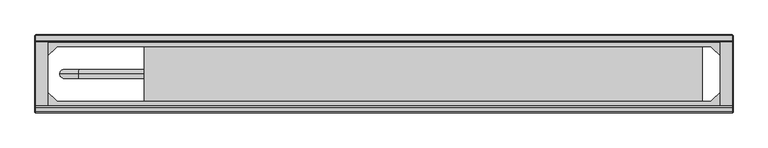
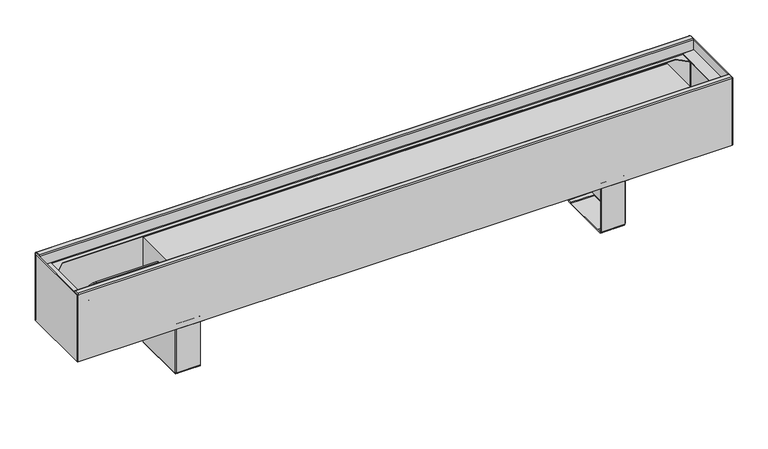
"""IFC4 building model written with IfcOpenShell, lengths in millimetres: proxy geometry, TECHNO_Конвектор напольный_Vita KPZ 135 : KPZ 135-130."""

from ifc_helpers import new_model, si_unit, point, frame, origin, place, context, project, spatial, polyline, circle_curve, ellipse_curve, trimmed, outline, extrude, source, transform, mapped, element, save
from ifc_brep_helpers import plane_surface, cylinder_surface, revolved_surface, advanced_brep


def mechanical_equipment_0ab18733(model_context):
    return source(origin(), model_context, "Body", "SolidModel", [
        advanced_brep(
        [(409.7, -116.8, 1.5), (409.7, -114.5, 3.8), (409.7, -114.5, 4.9), (409.7, -116.0, 4.9), (409.7, -116.0, 3.8), (409.7, -116.8, 3.0), (409.7, -124.5, 3.0), (409.7, -124.5, 1.5), (409.7, -117.6, 1.5), (409.7, -114.5, 97.7), (409.7, -113.7, 98.5), (409.7, -101.0, 98.5), (409.7, -101.0, 100.0), (409.7, -113.7, 100.0), (409.7, -116.0, 97.7), (409.7, -116.0, 95.5), (409.7, -114.5, 95.5), (409.7, -220.5, 3.8), (409.7, -218.2, 1.5), (409.7, -217.4, 1.5), (409.7, -210.5, 1.5), (409.7, -210.5, 3.0), (409.7, -218.2, 3.0), (409.7, -219.0, 3.8), (409.7, -219.0, 4.9), (409.7, -220.5, 4.9), (409.7, -219.0, 97.7), (409.7, -221.3, 100.0), (409.7, -234.0, 100.0), (409.7, -234.0, 98.5), (409.7, -221.3, 98.5), (409.7, -220.5, 97.7), (409.7, -220.5, 95.5), (409.7, -219.0, 95.5), (367.0, -220.5, 97.7), (367.0, -221.3, 98.5), (367.0, -234.0, 98.5), (367.0, -234.0, 100.0), (367.0, -221.3, 100.0), (367.0, -219.0, 97.7), (367.0, -219.0, 3.8), (367.0, -218.2, 3.0), (367.0, -210.5, 3.0), (367.0, -210.5, 1.5), (367.0, -124.5, 1.5), (367.0, -124.5, 3.0), (367.0, -116.8, 3.0), (367.0, -116.0, 3.8), (367.0, -116.0, 97.7), (367.0, -113.7, 100.0), (367.0, -101.0, 100.0), (367.0, -101.0, 98.5), (367.0, -113.7, 98.5), (367.0, -114.5, 97.7), (367.0, -114.5, 3.8), (367.0, -116.8, 1.5), (367.0, -117.6, 1.5), (367.0, -117.6, 0.0), (367.0, -217.4, 0.0), (367.0, -217.4, 1.5), (367.0, -218.2, 1.5), (367.0, -220.5, 3.8), (410.5, -116.8, 95.5), (410.5, -218.2, 95.5), (412.0, -218.2, 95.5), (412.0, -116.8, 95.5), (412.0, -116.8, 4.9), (412.0, -117.6, 4.9), (410.5, -117.6, 4.9), (410.5, -116.8, 4.9), (410.5, -218.2, 4.9), (410.5, -217.4, 4.9), (412.0, -217.4, 4.9), (412.0, -218.2, 4.9), (410.5, -117.6, 2.3), (410.5, -217.4, 2.3), (412.0, -217.4, 2.3), (412.0, -117.6, 2.3), (409.7, -117.6, 0.0), (409.7, -217.4, 0.0)],
        [
            (0, 1, circle_curve(frame((409.7, -116.8, 3.8), z_axis=(1.0, 0.0, 0.0), x_axis=(0.0, -1.0, 0.0)), 2.3)),
            (1, 2),
            (2, 3),
            (3, 4),
            (4, 5, circle_curve(frame((409.7, -116.8, 3.8), z_axis=(-1.0, 0.0, 0.0), x_axis=(0.0, -1.0, 0.0)), 0.8)),
            (5, 6),
            (6, 7),
            (7, 8),
            (8, 0),
            (9, 10, circle_curve(frame((409.7, -113.7, 97.7), z_axis=(-1.0, 0.0, 0.0), x_axis=(0.0, -1.0, 0.0)), 0.8)),
            (10, 11),
            (11, 12),
            (12, 13),
            (13, 14, circle_curve(frame((409.7, -113.7, 97.7), z_axis=(1.0, 0.0, 0.0), x_axis=(0.0, -1.0, 0.0)), 2.3)),
            (14, 15),
            (15, 16),
            (16, 9),
            (17, 18, circle_curve(frame((409.7, -218.2, 3.8), z_axis=(1.0, 0.0, 0.0), x_axis=(0.0, -1.0, 0.0)), 2.3)),
            (18, 19),
            (19, 20),
            (20, 21),
            (21, 22),
            (22, 23, circle_curve(frame((409.7, -218.2, 3.8), z_axis=(-1.0, 0.0, 0.0), x_axis=(0.0, -1.0, 0.0)), 0.8)),
            (23, 24),
            (24, 25),
            (25, 17),
            (26, 27, circle_curve(frame((409.7, -221.3, 97.7), z_axis=(1.0, 0.0, 0.0), x_axis=(0.0, -1.0, 0.0)), 2.3)),
            (27, 28),
            (28, 29),
            (29, 30),
            (30, 31, circle_curve(frame((409.7, -221.3, 97.7), z_axis=(-1.0, 0.0, 0.0), x_axis=(0.0, -1.0, 0.0)), 0.8)),
            (31, 32),
            (32, 33),
            (33, 26),
            (34, 35, circle_curve(frame((367.0, -221.3, 97.7), z_axis=(1.0, 0.0, 0.0), x_axis=(0.0, -1.0, 0.0)), 0.8)),
            (35, 36),
            (36, 37),
            (37, 38),
            (38, 39, circle_curve(frame((367.0, -221.3, 97.7), z_axis=(-1.0, 0.0, 0.0), x_axis=(0.0, -1.0, 0.0)), 2.3)),
            (39, 40),
            (40, 41, circle_curve(frame((367.0, -218.2, 3.8), z_axis=(1.0, 0.0, 0.0), x_axis=(0.0, -1.0, 0.0)), 0.8)),
            (41, 42),
            (42, 43),
            (43, 44),
            (44, 45),
            (45, 46),
            (46, 47, circle_curve(frame((367.0, -116.8, 3.8), z_axis=(1.0, 0.0, 0.0), x_axis=(0.0, -1.0, 0.0)), 0.8)),
            (47, 48),
            (48, 49, circle_curve(frame((367.0, -113.7, 97.7), z_axis=(-1.0, 0.0, 0.0), x_axis=(0.0, -1.0, 0.0)), 2.3)),
            (49, 50),
            (50, 51),
            (51, 52),
            (52, 53, circle_curve(frame((367.0, -113.7, 97.7), z_axis=(1.0, 0.0, 0.0), x_axis=(0.0, -1.0, 0.0)), 0.8)),
            (53, 54),
            (54, 55, circle_curve(frame((367.0, -116.8, 3.8), z_axis=(-1.0, 0.0, 0.0), x_axis=(0.0, -1.0, 0.0)), 2.3)),
            (55, 56),
            (56, 57),
            (57, 58),
            (58, 59),
            (59, 60),
            (60, 61, circle_curve(frame((367.0, -218.2, 3.8), z_axis=(-1.0, 0.0, 0.0), x_axis=(0.0, -1.0, 0.0)), 2.3)),
            (61, 34),
            (30, 35),
            (34, 31),
            (29, 36),
            (28, 37),
            (27, 38),
            (26, 39),
            (33, 24),
            (23, 40),
            (22, 41),
            (5, 46),
            (45, 6),
            (4, 47),
            (3, 15),
            (14, 48),
            (13, 49),
            (12, 50),
            (11, 51),
            (10, 52),
            (9, 53),
            (16, 2),
            (1, 54),
            (0, 55),
            (8, 56),
            (17, 61),
            (60, 18),
            (25, 32),
            (21, 42),
            (20, 43),
            (59, 19),
            (44, 7),
            (15, 62, circle_curve(frame((409.7, -116.8, 95.5), z_axis=(0.0, 0.0, -1.0), x_axis=(-1.0, 0.0, 0.0)), 0.8)),
            (62, 63),
            (63, 33, circle_curve(frame((409.7, -218.2, 95.5), z_axis=(0.0, 0.0, -1.0), x_axis=(-1.0, 0.0, 0.0)), 0.8)),
            (32, 64, circle_curve(frame((409.7, -218.2, 95.5), z_axis=(0.0, 0.0, 1.0), x_axis=(-1.0, 0.0, 0.0)), 2.3)),
            (64, 65),
            (65, 16, circle_curve(frame((409.7, -116.8, 95.5), z_axis=(0.0, 0.0, 1.0), x_axis=(-1.0, 0.0, 0.0)), 2.3)),
            (2, 66, circle_curve(frame((409.7, -116.8, 4.9), z_axis=(0.0, 0.0, -1.0), x_axis=(-1.0, 0.0, 0.0)), 2.3)),
            (66, 67),
            (67, 68),
            (68, 69),
            (69, 3, circle_curve(frame((409.7, -116.8, 4.9), z_axis=(0.0, 0.0, 1.0), x_axis=(-1.0, 0.0, 0.0)), 0.8)),
            (24, 70, circle_curve(frame((409.7, -218.2, 4.9), z_axis=(0.0, 0.0, 1.0), x_axis=(-1.0, 0.0, 0.0)), 0.8)),
            (70, 71),
            (71, 72),
            (72, 73),
            (73, 25, circle_curve(frame((409.7, -218.2, 4.9), z_axis=(0.0, 0.0, -1.0), x_axis=(-1.0, 0.0, 0.0)), 2.3)),
            (69, 62),
            (68, 74),
            (74, 75),
            (75, 71),
            (70, 63),
            (64, 73),
            (72, 76),
            (76, 77),
            (77, 67),
            (66, 65),
            (8, 74, circle_curve(frame((409.7, -117.6, 2.3), z_axis=(0.0, -1.0, 0.0), x_axis=(-1.0, 0.0, 0.0)), 0.8)),
            (77, 78, circle_curve(frame((409.7, -117.6, 2.3), z_axis=(0.0, 1.0, 0.0), x_axis=(-1.0, 0.0, 0.0)), 2.3)),
            (78, 57),
            (58, 79),
            (79, 76, circle_curve(frame((409.7, -217.4, 2.3), z_axis=(0.0, -1.0, 0.0), x_axis=(-1.0, 0.0, 0.0)), 2.3)),
            (75, 19, circle_curve(frame((409.7, -217.4, 2.3), z_axis=(0.0, 1.0, 0.0), x_axis=(-1.0, 0.0, 0.0)), 0.8)),
            (20, 7),
            (79, 78),
        ],
        [
            plane_surface(frame((409.7, -222.1, 97.7), z_axis=(1.0, 0.0, 0.0), x_axis=(0.0, 0.0, 1.0))),
            plane_surface(frame((367.0, -222.1, 97.7), z_axis=(-1.0, 0.0, 0.0), x_axis=(0.0, 0.0, -1.0))),
            revolved_surface(polyline([(409.7, -222.10000000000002, 97.7), (367.0, -222.10000000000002, 97.7)]), (409.7, -221.3, 97.7), (1.0, 0.0, 0.0)),
            plane_surface(frame((367.0, -221.3, 98.5), z_axis=(0.0, 0.0, -1.0), x_axis=(1.0, 0.0, 0.0))),
            plane_surface(frame((367.0, -234.0, 98.5), z_axis=(0.0, -1.0, 0.0), x_axis=(1.0, 0.0, 0.0))),
            plane_surface(frame((367.0, -234.0, 100.0), z_axis=(0.0, 0.0, 1.0), x_axis=(1.0, 0.0, 0.0))),
            cylinder_surface(frame((409.7, -221.3, 97.7), z_axis=(-1.0, 0.0, 0.0), x_axis=(0.0, -1.0, 0.0)), 2.3),
            plane_surface(frame((367.0, -219.0, 97.7), z_axis=(0.0, 1.0, 0.0), x_axis=(1.0, 0.0, 0.0))),
            revolved_surface(polyline([(409.7, -219.0, 3.8), (367.0, -219.0, 3.8)]), (409.7, -218.2, 3.8), (1.0, 0.0, 0.0)),
            plane_surface(frame((367.0, -124.5, 3.0), z_axis=(0.0, 0.0, 1.0), x_axis=(1.0, 0.0, 0.0))),
            revolved_surface(polyline([(409.7, -117.6, 3.8), (367.0, -117.6, 3.8)]), (412.0, -116.8, 3.8), (1.0, 0.0, 0.0)),
            plane_surface(frame((367.0, -116.0, 3.8), z_axis=(0.0, -1.0, 0.0), x_axis=(1.0, 0.0, 0.0))),
            cylinder_surface(frame((412.0, -113.7, 97.7), z_axis=(-1.0, 0.0, 0.0), x_axis=(0.0, -1.0, 0.0)), 2.3),
            plane_surface(frame((367.0, -113.7, 100.0), z_axis=(0.0, 0.0, 1.0), x_axis=(1.0, 0.0, 0.0))),
            plane_surface(frame((367.0, -101.0, 100.0), z_axis=(0.0, 1.0, 0.0), x_axis=(1.0, 0.0, 0.0))),
            plane_surface(frame((367.0, -101.0, 98.5), z_axis=(0.0, 0.0, -1.0), x_axis=(1.0, 0.0, 0.0))),
            revolved_surface(polyline([(409.7, -114.5, 97.7), (367.0, -114.5, 97.7)]), (412.0, -113.7, 97.7), (1.0, 0.0, 0.0)),
            plane_surface(frame((367.0, -114.5, 97.7), z_axis=(0.0, 1.0, 0.0), x_axis=(1.0, 0.0, 0.0))),
            cylinder_surface(frame((412.0, -116.8, 3.8), z_axis=(-1.0, 0.0, 0.0), x_axis=(0.0, -1.0, 0.0)), 2.3),
            plane_surface(frame((367.0, -116.8, 1.5), z_axis=(0.0, 0.0, -1.0), x_axis=(1.0, 0.0, 0.0))),
            cylinder_surface(frame((409.7, -218.2, 3.8), z_axis=(-1.0, 0.0, 0.0), x_axis=(0.0, -1.0, 0.0)), 2.3),
            plane_surface(frame((367.0, -220.5, 3.8), z_axis=(0.0, -1.0, 0.0), x_axis=(1.0, 0.0, 0.0))),
            plane_surface(frame((367.0, -218.2, 3.0), z_axis=(0.0, 0.0, 1.0), x_axis=(1.0, 0.0, 0.0))),
            plane_surface(frame((367.0, -210.5, 3.0), z_axis=(0.0, 1.0, 0.0), x_axis=(1.0, 0.0, 0.0))),
            plane_surface(frame((367.0, -210.5, 1.5), z_axis=(0.0, 0.0, -1.0), x_axis=(1.0, 0.0, 0.0))),
            plane_surface(frame((367.0, -124.5, 1.5), z_axis=(0.0, -1.0, 0.0), x_axis=(1.0, 0.0, 0.0))),
            plane_surface(frame((409.7, -116.0, 95.5), z_axis=(0.0, 0.0, 1.0), x_axis=(0.0, -1.0, 0.0))),
            plane_surface(frame((409.7, -116.0, 4.9), z_axis=(0.0, 0.0, -1.0), x_axis=(0.0, 1.0, 0.0))),
            revolved_surface(polyline([(408.9, -116.8, 4.9), (408.9, -116.8, 95.5)]), (409.7, -116.8, 4.9), (0.0, 0.0, -1.0)),
            plane_surface(frame((410.5, -116.8, 95.5), z_axis=(-1.0, 0.0, 0.0), x_axis=(0.0, 0.0, -1.0))),
            plane_surface(frame((412.0, -117.6, 95.5), z_axis=(1.0, 0.0, 0.0), x_axis=(0.0, 0.0, -1.0))),
            cylinder_surface(frame((409.7, -116.8, 4.9), z_axis=(0.0, 0.0, 1.0), x_axis=(-1.0, 0.0, 0.0)), 2.3),
            cylinder_surface(frame((409.7, -218.2, 0.0), z_axis=(0.0, 0.0, 1.0), x_axis=(-1.0, 0.0, 0.0)), 2.3),
            revolved_surface(polyline([(408.9, -218.2, 4.9), (408.9, -218.2, 95.5)]), (409.7, -218.2, 0.0), (0.0, 0.0, -1.0)),
            plane_surface(frame((367.0, -117.6, 1.5), z_axis=(0.0, 1.0, 0.0), x_axis=(0.0, 0.0, 1.0))),
            plane_surface(frame((367.0, -217.4, 1.5), z_axis=(0.0, -1.0, 0.0), x_axis=(0.0, 0.0, -1.0))),
            plane_surface(frame((367.0, -117.6, 1.5), z_axis=(0.0, 0.0, 1.0), x_axis=(0.0, -1.0, 0.0))),
            revolved_surface(polyline([(408.9, -217.4, 2.3), (408.9, -117.6, 2.3)]), (409.7, -217.4, 2.3), (0.0, -1.0, 0.0)),
            cylinder_surface(frame((409.7, -217.4, 2.3), z_axis=(0.0, 1.0, 0.0), x_axis=(-1.0, 0.0, 0.0)), 2.3),
            plane_surface(frame((409.7, -117.6, 0.0), z_axis=(0.0, 0.0, -1.0), x_axis=(0.0, -1.0, 0.0))),
        ],
        [
            (0, [[1, 2, 3, 4, 5, 6, 7, 8, 9]]),
            (0, [[10, 11, 12, 13, 14, 15, 16, 17]]),
            (0, [[18, 19, 20, 21, 22, 23, 24, 25, 26]]),
            (0, [[27, 28, 29, 30, 31, 32, 33, 34]]),
            (1, [[35, 36, 37, 38, 39, 40, 41, 42, 43, 44, 45, 46, 47, 48, 49, 50, 51, 52, 53, 54, 55, 56, 57, 58, 59, 60, 61, 62]]),
            (2, [[-31, 63, -35, 64]]),
            (3, [[-30, 65, -36, -63]]),
            (4, [[-29, 66, -37, -65]]),
            (5, [[-28, 67, -38, -66]]),
            (6, [[-27, 68, -39, -67]]),
            (7, [[-40, -68, -34, 69, -24, 70]]),
            (8, [[-23, 71, -41, -70]]),
            (9, [[-6, 72, -46, 73]]),
            (10, [[-5, 74, -47, -72]]),
            (11, [[-48, -74, -4, 75, -15, 76]]),
            (12, [[-14, 77, -49, -76]]),
            (13, [[-13, 78, -50, -77]]),
            (14, [[-12, 79, -51, -78]]),
            (15, [[-11, 80, -52, -79]]),
            (16, [[-10, 81, -53, -80]]),
            (17, [[-54, -81, -17, 82, -2, 83]]),
            (18, [[-1, 84, -55, -83]]),
            (19, [[-84, -9, 85, -56]]),
            (20, [[-18, 86, -61, 87]]),
            (21, [[-62, -86, -26, 88, -32, -64]]),
            (22, [[-22, 89, -42, -71]]),
            (23, [[-21, 90, -43, -89]]),
            (24, [[-87, -60, 91, -19]]),
            (25, [[-7, -73, -45, 92]]),
            (26, [[93, 94, 95, -33, 96, 97, 98, -16]]),
            (27, [[99, 100, 101, 102, 103, -3]]),
            (27, [[104, 105, 106, 107, 108, -25]]),
            (28, [[-93, -75, -103, 109]]),
            (29, [[-94, -109, -102, 110, 111, 112, -105, 113]]),
            (30, [[-97, 114, -107, 115, 116, 117, -100, 118]]),
            (31, [[-98, -118, -99, -82]]),
            (32, [[-96, -88, -108, -114]]),
            (33, [[-95, -113, -104, -69]]),
            (34, [[-57, -85, 119, -110, -101, -117, 120, 121]]),
            (35, [[122, 123, -115, -106, -112, 124, -91, -59]]),
            (36, [[125, -92, -44, -90]]),
            (37, [[-119, -8, -125, -20, -124, -111]]),
            (38, [[-120, -116, -123, 126]]),
            (39, [[-121, -126, -122, -58]]),
        ],
    ),
        advanced_brep(
        [(-409.7, -218.2, 1.5), (-409.7, -220.5, 3.8), (-409.7, -220.5, 4.9), (-409.7, -219.0, 4.9), (-409.7, -219.0, 3.8), (-409.7, -218.2, 3.0), (-409.7, -210.5, 3.0), (-409.7, -210.5, 1.5), (-409.7, -217.4, 1.5), (-409.7, -220.5, 97.7), (-409.7, -221.3, 98.5), (-409.7, -234.0, 98.5), (-409.7, -234.0, 100.0), (-409.7, -221.3, 100.0), (-409.7, -219.0, 97.7), (-409.7, -219.0, 95.5), (-409.7, -220.5, 95.5), (-409.7, -114.5, 3.8), (-409.7, -116.8, 1.5), (-409.7, -117.6, 1.5), (-409.7, -124.5, 1.5), (-409.7, -124.5, 3.0), (-409.7, -116.8, 3.0), (-409.7, -116.0, 3.8), (-409.7, -116.0, 4.9), (-409.7, -114.5, 4.9), (-409.7, -116.0, 97.7), (-409.7, -113.7, 100.0), (-409.7, -101.0, 100.0), (-409.7, -101.0, 98.5), (-409.7, -113.7, 98.5), (-409.7, -114.5, 97.7), (-409.7, -114.5, 95.5), (-409.7, -116.0, 95.5), (-367.0, -114.5, 97.7), (-367.0, -113.7, 98.5), (-367.0, -101.0, 98.5), (-367.0, -101.0, 100.0), (-367.0, -113.7, 100.0), (-367.0, -116.0, 97.7), (-367.0, -116.0, 3.8), (-367.0, -116.8, 3.0), (-367.0, -124.5, 3.0), (-367.0, -124.5, 1.5), (-367.0, -210.5, 1.5), (-367.0, -210.5, 3.0), (-367.0, -218.2, 3.0), (-367.0, -219.0, 3.8), (-367.0, -219.0, 97.7), (-367.0, -221.3, 100.0), (-367.0, -234.0, 100.0), (-367.0, -234.0, 98.5), (-367.0, -221.3, 98.5), (-367.0, -220.5, 97.7), (-367.0, -220.5, 3.8), (-367.0, -218.2, 1.5), (-367.0, -217.4, 1.5), (-367.0, -217.4, 0.0), (-367.0, -117.6, 0.0), (-367.0, -117.6, 1.5), (-367.0, -116.8, 1.5), (-367.0, -114.5, 3.8), (-410.5, -218.2, 95.5), (-410.5, -116.8, 95.5), (-412.0, -116.8, 95.5), (-412.0, -218.2, 95.5), (-412.0, -218.2, 4.9), (-412.0, -217.4, 4.9), (-410.5, -217.4, 4.9), (-410.5, -218.2, 4.9), (-410.5, -116.8, 4.9), (-410.5, -117.6, 4.9), (-412.0, -117.6, 4.9), (-412.0, -116.8, 4.9), (-410.5, -217.4, 2.3), (-410.5, -117.6, 2.3), (-412.0, -117.6, 2.3), (-412.0, -217.4, 2.3), (-409.7, -217.4, 0.0), (-409.7, -117.6, 0.0)],
        [
            (0, 1, circle_curve(frame((-409.7, -218.2, 3.8), z_axis=(-1.0, 0.0, 0.0), x_axis=(0.0, 1.0, 0.0)), 2.3)),
            (1, 2),
            (2, 3),
            (3, 4),
            (4, 5, circle_curve(frame((-409.7, -218.2, 3.8), z_axis=(1.0, 0.0, 0.0), x_axis=(0.0, 1.0, 0.0)), 0.8)),
            (5, 6),
            (6, 7),
            (7, 8),
            (8, 0),
            (9, 10, circle_curve(frame((-409.7, -221.3, 97.7), z_axis=(1.0, 0.0, 0.0), x_axis=(0.0, 1.0, 0.0)), 0.8)),
            (10, 11),
            (11, 12),
            (12, 13),
            (13, 14, circle_curve(frame((-409.7, -221.3, 97.7), z_axis=(-1.0, 0.0, 0.0), x_axis=(0.0, 1.0, 0.0)), 2.3)),
            (14, 15),
            (15, 16),
            (16, 9),
            (17, 18, circle_curve(frame((-409.7, -116.8, 3.8), z_axis=(-1.0, 0.0, 0.0), x_axis=(0.0, 1.0, 0.0)), 2.3)),
            (18, 19),
            (19, 20),
            (20, 21),
            (21, 22),
            (22, 23, circle_curve(frame((-409.7, -116.8, 3.8), z_axis=(1.0, 0.0, 0.0), x_axis=(0.0, 1.0, 0.0)), 0.8)),
            (23, 24),
            (24, 25),
            (25, 17),
            (26, 27, circle_curve(frame((-409.7, -113.7, 97.7), z_axis=(-1.0, 0.0, 0.0), x_axis=(0.0, 1.0, 0.0)), 2.3)),
            (27, 28),
            (28, 29),
            (29, 30),
            (30, 31, circle_curve(frame((-409.7, -113.7, 97.7), z_axis=(1.0, 0.0, 0.0), x_axis=(0.0, 1.0, 0.0)), 0.8)),
            (31, 32),
            (32, 33),
            (33, 26),
            (34, 35, circle_curve(frame((-367.0, -113.7, 97.7), z_axis=(-1.0, 0.0, 0.0), x_axis=(0.0, 1.0, 0.0)), 0.8)),
            (35, 36),
            (36, 37),
            (37, 38),
            (38, 39, circle_curve(frame((-367.0, -113.7, 97.7), z_axis=(1.0, 0.0, 0.0), x_axis=(0.0, 1.0, 0.0)), 2.3)),
            (39, 40),
            (40, 41, circle_curve(frame((-367.0, -116.8, 3.8), z_axis=(-1.0, 0.0, 0.0), x_axis=(0.0, 1.0, 0.0)), 0.8)),
            (41, 42),
            (42, 43),
            (43, 44),
            (44, 45),
            (45, 46),
            (46, 47, circle_curve(frame((-367.0, -218.2, 3.8), z_axis=(-1.0, 0.0, 0.0), x_axis=(0.0, 1.0, 0.0)), 0.8)),
            (47, 48),
            (48, 49, circle_curve(frame((-367.0, -221.3, 97.7), z_axis=(1.0, 0.0, 0.0), x_axis=(0.0, 1.0, 0.0)), 2.3)),
            (49, 50),
            (50, 51),
            (51, 52),
            (52, 53, circle_curve(frame((-367.0, -221.3, 97.7), z_axis=(-1.0, 0.0, 0.0), x_axis=(0.0, 1.0, 0.0)), 0.8)),
            (53, 54),
            (54, 55, circle_curve(frame((-367.0, -218.2, 3.8), z_axis=(1.0, 0.0, 0.0), x_axis=(0.0, 1.0, 0.0)), 2.3)),
            (55, 56),
            (56, 57),
            (57, 58),
            (58, 59),
            (59, 60),
            (60, 61, circle_curve(frame((-367.0, -116.8, 3.8), z_axis=(1.0, 0.0, 0.0), x_axis=(0.0, 1.0, 0.0)), 2.3)),
            (61, 34),
            (30, 35),
            (34, 31),
            (29, 36),
            (28, 37),
            (27, 38),
            (26, 39),
            (33, 24),
            (23, 40),
            (22, 41),
            (5, 46),
            (45, 6),
            (4, 47),
            (3, 15),
            (14, 48),
            (13, 49),
            (12, 50),
            (11, 51),
            (10, 52),
            (9, 53),
            (16, 2),
            (1, 54),
            (0, 55),
            (8, 56),
            (17, 61),
            (60, 18),
            (25, 32),
            (21, 42),
            (20, 43),
            (59, 19),
            (44, 7),
            (15, 62, circle_curve(frame((-409.7, -218.2, 95.5), z_axis=(0.0, 0.0, -1.0), x_axis=(1.0, 0.0, 0.0)), 0.8)),
            (62, 63),
            (63, 33, circle_curve(frame((-409.7, -116.8, 95.5), z_axis=(0.0, 0.0, -1.0), x_axis=(1.0, 0.0, 0.0)), 0.8)),
            (32, 64, circle_curve(frame((-409.7, -116.8, 95.5), z_axis=(0.0, 0.0, 1.0), x_axis=(1.0, 0.0, 0.0)), 2.3)),
            (64, 65),
            (65, 16, circle_curve(frame((-409.7, -218.2, 95.5), z_axis=(0.0, 0.0, 1.0), x_axis=(1.0, 0.0, 0.0)), 2.3)),
            (2, 66, circle_curve(frame((-409.7, -218.2, 4.9), z_axis=(0.0, 0.0, -1.0), x_axis=(1.0, 0.0, 0.0)), 2.3)),
            (66, 67),
            (67, 68),
            (68, 69),
            (69, 3, circle_curve(frame((-409.7, -218.2, 4.9), z_axis=(0.0, 0.0, 1.0), x_axis=(1.0, 0.0, 0.0)), 0.8)),
            (24, 70, circle_curve(frame((-409.7, -116.8, 4.9), z_axis=(0.0, 0.0, 1.0), x_axis=(1.0, 0.0, 0.0)), 0.8)),
            (70, 71),
            (71, 72),
            (72, 73),
            (73, 25, circle_curve(frame((-409.7, -116.8, 4.9), z_axis=(0.0, 0.0, -1.0), x_axis=(1.0, 0.0, 0.0)), 2.3)),
            (69, 62),
            (68, 74),
            (74, 75),
            (75, 71),
            (70, 63),
            (64, 73),
            (72, 76),
            (76, 77),
            (77, 67),
            (66, 65),
            (8, 74, circle_curve(frame((-409.7, -217.4, 2.3), z_axis=(0.0, 1.0, 0.0), x_axis=(1.0, 0.0, 0.0)), 0.8)),
            (77, 78, circle_curve(frame((-409.7, -217.4, 2.3), z_axis=(0.0, -1.0, 0.0), x_axis=(1.0, 0.0, 0.0)), 2.3)),
            (78, 57),
            (58, 79),
            (79, 76, circle_curve(frame((-409.7, -117.6, 2.3), z_axis=(0.0, 1.0, 0.0), x_axis=(1.0, 0.0, 0.0)), 2.3)),
            (75, 19, circle_curve(frame((-409.7, -117.6, 2.3), z_axis=(0.0, -1.0, 0.0), x_axis=(1.0, 0.0, 0.0)), 0.8)),
            (20, 7),
            (79, 78),
        ],
        [
            plane_surface(frame((-409.7, -112.9, 97.7), z_axis=(-1.0, 0.0, 0.0), x_axis=(0.0, 0.0, 1.0))),
            plane_surface(frame((-367.0, -112.9, 97.7), z_axis=(1.0, 0.0, 0.0), x_axis=(0.0, 0.0, -1.0))),
            revolved_surface(polyline([(-409.7, -112.9, 97.7), (-367.0, -112.9, 97.7)]), (-409.7, -113.7, 97.7), (-1.0, 0.0, 0.0)),
            plane_surface(frame((-367.0, -113.7, 98.5), z_axis=(0.0, 0.0, -1.0), x_axis=(-1.0, 0.0, 0.0))),
            plane_surface(frame((-367.0, -101.0, 98.5), z_axis=(0.0, 1.0, 0.0), x_axis=(-1.0, 0.0, 0.0))),
            plane_surface(frame((-367.0, -101.0, 100.0), z_axis=(0.0, 0.0, 1.0), x_axis=(-1.0, 0.0, 0.0))),
            cylinder_surface(frame((-409.7, -113.7, 97.7), z_axis=(1.0, 0.0, 0.0), x_axis=(0.0, 1.0, 0.0)), 2.3),
            plane_surface(frame((-367.0, -116.0, 97.7), z_axis=(0.0, -1.0, 0.0), x_axis=(-1.0, 0.0, 0.0))),
            revolved_surface(polyline([(-409.7, -116.0, 3.8), (-367.0, -116.0, 3.8)]), (-409.7, -116.8, 3.8), (-1.0, 0.0, 0.0)),
            plane_surface(frame((-367.0, -210.5, 3.0), z_axis=(0.0, 0.0, 1.0), x_axis=(-1.0, 0.0, 0.0))),
            revolved_surface(polyline([(-409.7, -217.39999999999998, 3.8), (-367.0, -217.39999999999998, 3.8)]), (-412.0, -218.2, 3.8), (-1.0, 0.0, 0.0)),
            plane_surface(frame((-367.0, -219.0, 3.8), z_axis=(0.0, 1.0, 0.0), x_axis=(-1.0, 0.0, 0.0))),
            cylinder_surface(frame((-412.0, -221.3, 97.7), z_axis=(1.0, 0.0, 0.0), x_axis=(0.0, 1.0, 0.0)), 2.3),
            plane_surface(frame((-367.0, -221.3, 100.0), z_axis=(0.0, 0.0, 1.0), x_axis=(-1.0, 0.0, 0.0))),
            plane_surface(frame((-367.0, -234.0, 100.0), z_axis=(0.0, -1.0, 0.0), x_axis=(-1.0, 0.0, 0.0))),
            plane_surface(frame((-367.0, -234.0, 98.5), z_axis=(0.0, 0.0, -1.0), x_axis=(-1.0, 0.0, 0.0))),
            revolved_surface(polyline([(-409.7, -220.5, 97.7), (-367.0, -220.5, 97.7)]), (-412.0, -221.3, 97.7), (-1.0, 0.0, 0.0)),
            plane_surface(frame((-367.0, -220.5, 97.7), z_axis=(0.0, -1.0, 0.0), x_axis=(-1.0, 0.0, 0.0))),
            cylinder_surface(frame((-412.0, -218.2, 3.8), z_axis=(1.0, 0.0, 0.0), x_axis=(0.0, 1.0, 0.0)), 2.3),
            plane_surface(frame((-367.0, -218.2, 1.5), z_axis=(0.0, 0.0, -1.0), x_axis=(-1.0, 0.0, 0.0))),
            cylinder_surface(frame((-409.7, -116.8, 3.8), z_axis=(1.0, 0.0, 0.0), x_axis=(0.0, 1.0, 0.0)), 2.3),
            plane_surface(frame((-367.0, -114.5, 3.8), z_axis=(0.0, 1.0, 0.0), x_axis=(-1.0, 0.0, 0.0))),
            plane_surface(frame((-367.0, -116.8, 3.0), z_axis=(0.0, 0.0, 1.0), x_axis=(-1.0, 0.0, 0.0))),
            plane_surface(frame((-367.0, -124.5, 3.0), z_axis=(0.0, -1.0, 0.0), x_axis=(-1.0, 0.0, 0.0))),
            plane_surface(frame((-367.0, -124.5, 1.5), z_axis=(0.0, 0.0, -1.0), x_axis=(-1.0, 0.0, 0.0))),
            plane_surface(frame((-367.0, -210.5, 1.5), z_axis=(0.0, 1.0, 0.0), x_axis=(-1.0, 0.0, 0.0))),
            plane_surface(frame((-409.7, -219.0, 95.5), z_axis=(0.0, 0.0, 1.0), x_axis=(0.0, 1.0, 0.0))),
            plane_surface(frame((-409.7, -219.0, 4.9), z_axis=(0.0, 0.0, -1.0), x_axis=(0.0, -1.0, 0.0))),
            revolved_surface(polyline([(-408.9, -218.2, 4.9), (-408.9, -218.2, 95.5)]), (-409.7, -218.2, 4.9), (0.0, 0.0, -1.0)),
            plane_surface(frame((-410.5, -218.2, 95.5), z_axis=(1.0, 0.0, 0.0), x_axis=(0.0, 0.0, -1.0))),
            plane_surface(frame((-412.0, -217.4, 95.5), z_axis=(-1.0, 0.0, 0.0), x_axis=(0.0, 0.0, -1.0))),
            cylinder_surface(frame((-409.7, -218.2, 4.9), z_axis=(0.0, 0.0, 1.0), x_axis=(1.0, 0.0, 0.0)), 2.3),
            cylinder_surface(frame((-409.7, -116.8, 0.0), z_axis=(0.0, 0.0, 1.0), x_axis=(1.0, 0.0, 0.0)), 2.3),
            revolved_surface(polyline([(-408.9, -116.8, 4.9), (-408.9, -116.8, 95.5)]), (-409.7, -116.8, 0.0), (0.0, 0.0, -1.0)),
            plane_surface(frame((-367.0, -217.4, 1.5), z_axis=(0.0, -1.0, 0.0), x_axis=(0.0, 0.0, 1.0))),
            plane_surface(frame((-367.0, -117.6, 1.5), z_axis=(0.0, 1.0, 0.0), x_axis=(0.0, 0.0, -1.0))),
            plane_surface(frame((-367.0, -217.4, 1.5), z_axis=(0.0, 0.0, 1.0), x_axis=(0.0, 1.0, 0.0))),
            revolved_surface(polyline([(-408.9, -117.6, 2.3), (-408.9, -217.4, 2.3)]), (-409.7, -117.6, 2.3), (0.0, 1.0, 0.0)),
            cylinder_surface(frame((-409.7, -117.6, 2.3), z_axis=(0.0, -1.0, 0.0), x_axis=(1.0, 0.0, 0.0)), 2.3),
            plane_surface(frame((-409.7, -217.4, 0.0), z_axis=(0.0, 0.0, -1.0), x_axis=(0.0, 1.0, 0.0))),
        ],
        [
            (0, [[1, 2, 3, 4, 5, 6, 7, 8, 9]]),
            (0, [[10, 11, 12, 13, 14, 15, 16, 17]]),
            (0, [[18, 19, 20, 21, 22, 23, 24, 25, 26]]),
            (0, [[27, 28, 29, 30, 31, 32, 33, 34]]),
            (1, [[35, 36, 37, 38, 39, 40, 41, 42, 43, 44, 45, 46, 47, 48, 49, 50, 51, 52, 53, 54, 55, 56, 57, 58, 59, 60, 61, 62]]),
            (2, [[-31, 63, -35, 64]]),
            (3, [[-30, 65, -36, -63]]),
            (4, [[-29, 66, -37, -65]]),
            (5, [[-28, 67, -38, -66]]),
            (6, [[-27, 68, -39, -67]]),
            (7, [[-40, -68, -34, 69, -24, 70]]),
            (8, [[-23, 71, -41, -70]]),
            (9, [[-6, 72, -46, 73]]),
            (10, [[-5, 74, -47, -72]]),
            (11, [[-48, -74, -4, 75, -15, 76]]),
            (12, [[-14, 77, -49, -76]]),
            (13, [[-13, 78, -50, -77]]),
            (14, [[-12, 79, -51, -78]]),
            (15, [[-11, 80, -52, -79]]),
            (16, [[-10, 81, -53, -80]]),
            (17, [[-54, -81, -17, 82, -2, 83]]),
            (18, [[-1, 84, -55, -83]]),
            (19, [[-84, -9, 85, -56]]),
            (20, [[-18, 86, -61, 87]]),
            (21, [[-62, -86, -26, 88, -32, -64]]),
            (22, [[-22, 89, -42, -71]]),
            (23, [[-21, 90, -43, -89]]),
            (24, [[-87, -60, 91, -19]]),
            (25, [[-7, -73, -45, 92]]),
            (26, [[93, 94, 95, -33, 96, 97, 98, -16]]),
            (27, [[99, 100, 101, 102, 103, -3]]),
            (27, [[104, 105, 106, 107, 108, -25]]),
            (28, [[-93, -75, -103, 109]]),
            (29, [[-94, -109, -102, 110, 111, 112, -105, 113]]),
            (30, [[-97, 114, -107, 115, 116, 117, -100, 118]]),
            (31, [[-98, -118, -99, -82]]),
            (32, [[-96, -88, -108, -114]]),
            (33, [[-95, -113, -104, -69]]),
            (34, [[-57, -85, 119, -110, -101, -117, 120, 121]]),
            (35, [[122, 123, -115, -106, -112, 124, -91, -59]]),
            (36, [[125, -92, -44, -90]]),
            (37, [[-119, -8, -125, -20, -124, -111]]),
            (38, [[-120, -116, -123, 126]]),
            (39, [[-121, -126, -122, -58]]),
        ],
    ),
        advanced_brep(
        [(-412.0, -167.5, 186.5), (-412.0, -167.5, 171.5), (-525.0, -167.5, 186.5), (-525.0, -167.5, 171.5), (-542.5, -167.5, 154.0), (-557.5, -167.5, 154.0), (-557.5, -167.5, 100.0), (-542.5, -167.5, 100.0)],
        [
            (0, 1, circle_curve(frame((-412.0, -167.5, 179.0), z_axis=(1.0, 0.0, 0.0), x_axis=(0.0, 0.0, -1.0)), 7.5)),
            (1, 0, circle_curve(frame((-412.0, -167.5, 179.0), z_axis=(1.0, 0.0, 0.0), x_axis=(0.0, 0.0, -1.0)), 7.5)),
            (0, 2),
            (2, 3, circle_curve(frame((-525.0, -167.5, 179.0), z_axis=(1.0, 0.0, 0.0), x_axis=(0.0, 0.0, -1.0)), 7.5)),
            (3, 1),
            (3, 2, circle_curve(frame((-525.0, -167.5, 179.0), z_axis=(1.0, 0.0, 0.0), x_axis=(0.0, 0.0, -1.0)), 7.5)),
            (4, 3, circle_curve(frame((-525.0, -167.5, 154.0), z_axis=(0.0, 1.0, 0.0), x_axis=(0.0, 0.0, 1.0)), 17.5)),
            (2, 5, circle_curve(frame((-525.0, -167.5, 154.0), z_axis=(0.0, -1.0, 0.0), x_axis=(0.0, 0.0, 1.0)), 32.5)),
            (5, 4, circle_curve(frame((-550.0, -167.5, 154.0), z_axis=(0.0, 0.0, 1.0), x_axis=(1.0, 0.0, 0.0)), 7.5)),
            (4, 5, circle_curve(frame((-550.0, -167.5, 154.0), z_axis=(0.0, 0.0, 1.0), x_axis=(1.0, 0.0, 0.0)), 7.5)),
            (6, 7, circle_curve(frame((-550.0, -167.5, 100.0), z_axis=(0.0, 0.0, -1.0), x_axis=(1.0, 0.0, 0.0)), 7.5)),
            (7, 6, circle_curve(frame((-550.0, -167.5, 100.0), z_axis=(0.0, 0.0, -1.0), x_axis=(1.0, 0.0, 0.0)), 7.5)),
            (5, 6),
            (7, 4),
        ],
        [
            plane_surface(frame((-412.0, -167.5, 179.0), z_axis=(1.0, 0.0, 0.0), x_axis=(0.0, -1.0, 0.0))),
            cylinder_surface(frame((-412.0, -167.5, 179.0), z_axis=(1.0, 0.0, 0.0), x_axis=(0.0, 0.0, -1.0)), 7.5),
            revolved_surface(trimmed(ellipse_curve(frame((-525.0, -167.5, 179.0), z_axis=(1.0, 0.0, 0.0), x_axis=(0.0, 0.0, -1.0)), 7.5, 7.5), [point((-525.0, -167.5, 186.5))], [point((-525.0, -167.5, 171.5))], True, "CARTESIAN"), (-525.0, -167.5, 154.0), (0.0, -1.0, 0.0)),
            revolved_surface(trimmed(ellipse_curve(frame((-525.0, -167.5, 179.0), z_axis=(1.0, 0.0, 0.0), x_axis=(0.0, 0.0, -1.0)), 7.5, 7.5), [point((-525.0, -167.5, 171.5))], [point((-525.0, -167.5, 186.5))], True, "CARTESIAN"), (-525.0, -167.5, 154.0), (0.0, -1.0, 0.0)),
            plane_surface(frame((-550.0, -167.5, 100.0), z_axis=(0.0, 0.0, -1.0), x_axis=(0.0, -1.0, 0.0))),
            cylinder_surface(frame((-550.0, -167.5, 154.0), z_axis=(0.0, 0.0, 1.0), x_axis=(1.0, 0.0, 0.0)), 7.5),
        ],
        [
            (0, [[1, 2]]),
            (1, [[-1, 3, 4, 5]]),
            (1, [[-2, -5, 6, -3]]),
            (2, [[7, -4, 8, 9]]),
            (3, [[-8, -6, -7, 10]]),
            (4, [[11, 12]]),
            (5, [[-9, 13, -12, 14]]),
            (5, [[-10, -14, -11, -13]]),
        ],
    ),
        advanced_brep(
        [(-412.0, -167.5, 136.5), (-412.0, -167.5, 121.5), (-507.5, -167.5, 136.5), (-492.5, -167.5, 121.5), (-507.5, -167.5, 100.0), (-492.5, -167.5, 100.0)],
        [
            (0, 1, circle_curve(frame((-412.0, -167.5, 129.0), z_axis=(1.0, 0.0, 0.0), x_axis=(0.0, 0.0, -1.0)), 7.5)),
            (1, 0, circle_curve(frame((-412.0, -167.5, 129.0), z_axis=(1.0, 0.0, 0.0), x_axis=(0.0, 0.0, -1.0)), 7.5)),
            (0, 2),
            (2, 3, ellipse_curve(frame((-500.0, -167.5, 129.0), z_axis=(0.7071067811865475, 0.0, 0.7071067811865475), x_axis=(0.7071067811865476, 0.0, -0.7071067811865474)), 10.6066017, 7.5)),
            (3, 1),
            (3, 2, ellipse_curve(frame((-500.0, -167.5, 129.0), z_axis=(0.7071067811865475, 0.0, 0.7071067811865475), x_axis=(0.7071067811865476, 0.0, -0.7071067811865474)), 10.6066017, 7.5)),
            (4, 5, circle_curve(frame((-500.0, -167.5, 100.0), z_axis=(0.0, 0.0, -1.0), x_axis=(1.0, 0.0, 0.0)), 7.5)),
            (5, 4, circle_curve(frame((-500.0, -167.5, 100.0), z_axis=(0.0, 0.0, -1.0), x_axis=(1.0, 0.0, 0.0)), 7.5)),
            (2, 4),
            (5, 3),
        ],
        [
            plane_surface(frame((-412.0, -167.5, 129.0), z_axis=(1.0, 0.0, 0.0), x_axis=(0.0, -1.0, 0.0))),
            cylinder_surface(frame((-412.0, -167.5, 129.0), z_axis=(1.0, 0.0, 0.0), x_axis=(0.0, 0.0, -1.0)), 7.5),
            plane_surface(frame((-500.0, -167.5, 100.0), z_axis=(0.0, 0.0, -1.0), x_axis=(0.0, -1.0, 0.0))),
            cylinder_surface(frame((-500.0, -167.5, 129.0), z_axis=(0.0, 0.0, 1.0), x_axis=(1.0, 0.0, 0.0)), 7.5),
        ],
        [
            (0, [[1, 2]]),
            (1, [[-1, 3, 4, 5]]),
            (1, [[-2, -5, 6, -3]]),
            (2, [[7, 8]]),
            (3, [[-4, 9, -8, 10]]),
            (3, [[-6, -10, -7, -9]]),
        ],
    ),
        extrude(outline(polyline([(547.0, -117.5), (547.0, -217.5), (-412.0, -217.5), (-412.0, -117.5), (547.0, -117.5)])), frame((0.0, 0.0, 103.87), z_axis=(0.0, 0.0, 1.0), x_axis=(1.0, 0.0, 0.0)), (0.0, 0.0, 1.0), 100.0),
        extrude(outline(polyline([(-585.5004, -102.0), (-585.5004, -233.0), (-599.0, -233.0), (-599.0, -102.0), (-585.5004, -102.0)])), frame((0.0, 0.0, 101.83), z_axis=(0.0, 0.0, 1.0), x_axis=(1.0, 0.0, 0.0)), (0.0, 0.0, 1.0), 1.0002),
        extrude(outline(polyline([(585.5004, -102.0), (599.0, -102.0), (599.0, -233.0), (585.5004, -233.0), (585.5004, -102.0)])), frame((0.0, 0.0, 101.83), z_axis=(0.0, 0.0, 1.0), x_axis=(1.0, 0.0, 0.0)), (0.0, 0.0, 1.0), 1.0002),
        extrude(outline(polyline([(-599.0, -222.2), (-599.0, -112.8), (-578.0, -112.8), (-578.0, -222.2), (-599.0, -222.2)])), frame((0.0, 0.0, 208.83), z_axis=(0.0, 0.0, 1.0), x_axis=(1.0, 0.0, 0.0)), (0.0, 0.0, 1.0), 1.0002),
        extrude(outline(polyline([(599.0, -222.2), (578.0, -222.2), (578.0, -112.8), (599.0, -112.8), (599.0, -222.2)])), frame((0.0, 0.0, 208.83), z_axis=(0.0, 0.0, 1.0), x_axis=(1.0, 0.0, 0.0)), (0.0, 0.0, 1.0), 1.0002),
        advanced_brep(
        [(-598.2, -101.8, 230.83), (-598.2, -100.0, 229.03), (-598.2, -101.0, 229.03), (-598.2, -101.0, 207.83), (-598.2, -138.5, 207.83), (-598.2, -138.5, 208.83), (-598.2, -112.8, 208.83), (-598.2, -112.0, 209.63), (-598.2, -112.0, 229.03), (-598.2, -110.2, 230.83), (-598.2, -233.2, 230.83), (-598.2, -224.8, 230.83), (-598.2, -223.0, 229.03), (-598.2, -223.0, 209.63), (-598.2, -222.2, 208.83), (-598.2, -196.5, 208.83), (-598.2, -196.5, 207.83), (-598.2, -234.0, 207.83), (-598.2, -234.0, 229.03), (-598.2, -235.0, 229.03), (598.2, -101.8, 230.83), (598.2, -110.2, 230.83), (598.2, -112.0, 229.03), (598.2, -112.0, 209.63), (598.2, -112.8, 208.83), (598.2, -138.5, 208.83), (598.2, -138.5, 207.83), (598.2, -101.0, 207.83), (598.2, -101.0, 229.03), (598.2, -100.0, 229.03), (598.2, -233.2, 230.83), (598.2, -235.0, 229.03), (598.2, -234.0, 229.03), (598.2, -234.0, 207.83), (598.2, -196.5, 207.83), (598.2, -196.5, 208.83), (598.2, -222.2, 208.83), (598.2, -223.0, 209.63), (598.2, -223.0, 229.03), (598.2, -224.8, 230.83), (-580.3, -138.5, 208.83), (-561.8, -120.0, 208.83), (561.8, -120.0, 208.83), (580.3, -138.5, 208.83), (-580.3, -138.5, 207.83), (580.3, -138.5, 207.83), (561.8, -120.0, 207.83), (-561.8, -120.0, 207.83), (598.2, -100.0, 100.0), (-598.2, -100.0, 100.0), (-598.2, -235.0, 100.0), (598.2, -235.0, 100.0), (580.3, -196.5, 207.83), (-580.3, -196.5, 207.83), (-561.8, -215.0, 207.83), (561.8, -215.0, 207.83), (-580.3, -196.5, 208.83), (580.3, -196.5, 208.83), (561.8, -215.0, 208.83), (-561.8, -215.0, 208.83), (-600.0, -101.8, 229.03), (-600.0, -233.2, 229.03), (-599.0, -233.2, 229.03), (-599.0, -101.8, 229.03), (600.0, -233.2, 229.03), (600.0, -101.8, 229.03), (599.0, -101.8, 229.03), (599.0, -233.2, 229.03), (600.0, -101.8, 100.0), (600.0, -233.2, 100.0), (-600.0, -233.2, 100.0), (-600.0, -101.8, 100.0), (599.0, -101.8, 100.0), (598.2, -101.0, 100.0), (598.2, -113.0, 100.0), (-598.2, -113.0, 100.0), (-598.2, -101.0, 100.0), (-599.0, -101.8, 100.0), (-599.0, -233.2, 100.0), (-598.2, -234.0, 100.0), (-598.2, -222.0, 100.0), (598.2, -222.0, 100.0), (598.2, -234.0, 100.0), (599.0, -233.2, 100.0), (-598.2, -101.0, 100.83), (598.2, -101.0, 100.83), (598.2, -234.0, 100.83), (-598.2, -234.0, 100.83), (-598.2, -113.0, 100.83), (598.2, -113.0, 100.83), (598.2, -222.0, 100.83), (-598.2, -222.0, 100.83)],
        [
            (0, 1, circle_curve(frame((-598.2, -101.8, 229.03), z_axis=(-1.0, 0.0, 0.0), x_axis=(0.0, 1.0, 0.0)), 1.8)),
            (1, 2),
            (2, 3),
            (3, 4),
            (4, 5),
            (5, 6),
            (6, 7, circle_curve(frame((-598.2, -112.8, 209.63), z_axis=(1.0, 0.0, 0.0), x_axis=(0.0, 1.0, 0.0)), 0.8)),
            (7, 8),
            (8, 9, circle_curve(frame((-598.2, -110.2, 229.03), z_axis=(-1.0, 0.0, 0.0), x_axis=(0.0, 1.0, 0.0)), 1.8)),
            (9, 0),
            (10, 11),
            (11, 12, circle_curve(frame((-598.2, -224.8, 229.03), z_axis=(-1.0, 0.0, 0.0), x_axis=(0.0, 1.0, 0.0)), 1.8)),
            (12, 13),
            (13, 14, circle_curve(frame((-598.2, -222.2, 209.63), z_axis=(1.0, 0.0, 0.0), x_axis=(0.0, 1.0, 0.0)), 0.8)),
            (14, 15),
            (15, 16),
            (16, 17),
            (17, 18),
            (18, 19),
            (19, 10, circle_curve(frame((-598.2, -233.2, 229.03), z_axis=(-1.0, 0.0, 0.0), x_axis=(0.0, 1.0, 0.0)), 1.8)),
            (20, 21),
            (21, 22, circle_curve(frame((598.2, -110.2, 229.03), z_axis=(1.0, 0.0, 0.0), x_axis=(0.0, 1.0, 0.0)), 1.8)),
            (22, 23),
            (23, 24, circle_curve(frame((598.2, -112.8, 209.63), z_axis=(-1.0, 0.0, 0.0), x_axis=(0.0, 1.0, 0.0)), 0.8)),
            (24, 25),
            (25, 26),
            (26, 27),
            (27, 28),
            (28, 29),
            (29, 20, circle_curve(frame((598.2, -101.8, 229.03), z_axis=(1.0, 0.0, 0.0), x_axis=(0.0, 1.0, 0.0)), 1.8)),
            (30, 31, circle_curve(frame((598.2, -233.2, 229.03), z_axis=(1.0, 0.0, 0.0), x_axis=(0.0, 1.0, 0.0)), 1.8)),
            (31, 32),
            (32, 33),
            (33, 34),
            (34, 35),
            (35, 36),
            (36, 37, circle_curve(frame((598.2, -222.2, 209.63), z_axis=(-1.0, 0.0, 0.0), x_axis=(0.0, 1.0, 0.0)), 0.8)),
            (37, 38),
            (38, 39, circle_curve(frame((598.2, -224.8, 229.03), z_axis=(1.0, 0.0, 0.0), x_axis=(0.0, 1.0, 0.0)), 1.8)),
            (39, 30),
            (9, 21),
            (20, 0),
            (8, 22),
            (7, 23),
            (6, 24),
            (5, 40),
            (40, 41),
            (41, 42),
            (42, 43),
            (43, 25),
            (4, 44),
            (44, 40),
            (43, 45),
            (45, 26),
            (45, 46),
            (46, 47),
            (47, 44),
            (3, 27),
            (1, 29),
            (29, 48),
            (48, 49),
            (49, 1),
            (19, 31),
            (30, 10),
            (19, 50),
            (50, 51),
            (51, 31),
            (52, 34),
            (33, 17),
            (16, 53),
            (53, 54),
            (54, 55),
            (55, 52),
            (15, 56),
            (56, 53),
            (52, 57),
            (57, 35),
            (14, 36),
            (57, 58),
            (58, 59),
            (59, 56),
            (13, 37),
            (12, 38),
            (11, 39),
            (42, 46),
            (41, 47),
            (58, 55),
            (54, 59),
            (1, 60, circle_curve(frame((-598.2, -101.8, 229.03), z_axis=(0.0, 0.0, 1.0), x_axis=(1.0, 0.0, 0.0)), 1.8)),
            (60, 61),
            (61, 19, circle_curve(frame((-598.2, -233.2, 229.03), z_axis=(0.0, 0.0, 1.0), x_axis=(1.0, 0.0, 0.0)), 1.8)),
            (18, 62, circle_curve(frame((-598.2, -233.2, 229.03), z_axis=(0.0, 0.0, -1.0), x_axis=(1.0, 0.0, 0.0)), 0.8)),
            (62, 63),
            (63, 2, circle_curve(frame((-598.2, -101.8, 229.03), z_axis=(0.0, 0.0, -1.0), x_axis=(1.0, 0.0, 0.0)), 0.8)),
            (31, 64, circle_curve(frame((598.2, -233.2, 229.03), z_axis=(0.0, 0.0, 1.0), x_axis=(1.0, 0.0, 0.0)), 1.8)),
            (64, 65),
            (65, 29, circle_curve(frame((598.2, -101.8, 229.03), z_axis=(0.0, 0.0, 1.0), x_axis=(1.0, 0.0, 0.0)), 1.8)),
            (28, 66, circle_curve(frame((598.2, -101.8, 229.03), z_axis=(0.0, 0.0, -1.0), x_axis=(1.0, 0.0, 0.0)), 0.8)),
            (66, 67),
            (67, 32, circle_curve(frame((598.2, -233.2, 229.03), z_axis=(0.0, 0.0, -1.0), x_axis=(1.0, 0.0, 0.0)), 0.8)),
            (48, 68, circle_curve(frame((598.2, -101.8, 100.0), z_axis=(0.0, 0.0, -1.0), x_axis=(1.0, 0.0, 0.0)), 1.8)),
            (68, 69),
            (69, 51, circle_curve(frame((598.2, -233.2, 100.0), z_axis=(0.0, 0.0, -1.0), x_axis=(1.0, 0.0, 0.0)), 1.8)),
            (50, 70, circle_curve(frame((-598.2, -233.2, 100.0), z_axis=(0.0, 0.0, -1.0), x_axis=(1.0, 0.0, 0.0)), 1.8)),
            (70, 71),
            (71, 49, circle_curve(frame((-598.2, -101.8, 100.0), z_axis=(0.0, 0.0, -1.0), x_axis=(1.0, 0.0, 0.0)), 1.8)),
            (72, 73, circle_curve(frame((598.2, -101.8, 100.0), z_axis=(0.0, 0.0, 1.0), x_axis=(1.0, 0.0, 0.0)), 0.8)),
            (73, 74),
            (74, 75),
            (75, 76),
            (76, 77, circle_curve(frame((-598.2, -101.8, 100.0), z_axis=(0.0, 0.0, 1.0), x_axis=(1.0, 0.0, 0.0)), 0.8)),
            (77, 78),
            (78, 79, circle_curve(frame((-598.2, -233.2, 100.0), z_axis=(0.0, 0.0, 1.0), x_axis=(1.0, 0.0, 0.0)), 0.8)),
            (79, 80),
            (80, 81),
            (81, 82),
            (82, 83, circle_curve(frame((598.2, -233.2, 100.0), z_axis=(0.0, 0.0, 1.0), x_axis=(1.0, 0.0, 0.0)), 0.8)),
            (83, 72),
            (71, 60),
            (63, 77),
            (76, 84),
            (84, 3),
            (84, 85),
            (85, 27),
            (85, 73),
            (72, 66),
            (83, 67),
            (64, 69),
            (68, 65),
            (82, 86),
            (86, 33),
            (86, 87),
            (87, 17),
            (87, 79),
            (78, 62),
            (70, 61),
            (88, 89),
            (89, 85),
            (84, 88),
            (90, 91),
            (91, 87),
            (86, 90),
            (74, 89),
            (88, 75),
            (80, 91),
            (90, 81),
        ],
        [
            plane_surface(frame((-598.2, -110.2, 230.83), z_axis=(-1.0, 0.0, 0.0), x_axis=(0.0, 1.0, 0.0))),
            plane_surface(frame((598.2, -110.2, 230.83), z_axis=(1.0, 0.0, 0.0), x_axis=(0.0, -1.0, 0.0))),
            plane_surface(frame((598.2, -101.8, 230.83), z_axis=(0.0, 0.0, 1.0), x_axis=(-1.0, 0.0, 0.0))),
            cylinder_surface(frame((-598.2, -110.2, 229.03), z_axis=(1.0, 0.0, 0.0), x_axis=(0.0, 1.0, 0.0)), 1.8),
            plane_surface(frame((598.2, -112.0, 229.03), z_axis=(0.0, -1.0, 0.0), x_axis=(-1.0, 0.0, 0.0))),
            revolved_surface(polyline([(-598.2, -112.0, 209.63), (598.2, -112.0, 209.63)]), (-598.2, -112.8, 209.63), (-1.0, 0.0, 0.0)),
            plane_surface(frame((598.2, -112.8, 208.83), z_axis=(0.0, 0.0, 1.0), x_axis=(-1.0, 0.0, 0.0))),
            plane_surface(frame((598.2, -138.5, 208.83), z_axis=(0.0, -1.0, 0.0), x_axis=(-1.0, 0.0, 0.0))),
            plane_surface(frame((598.2, -138.5, 207.83), z_axis=(0.0, 0.0, -1.0), x_axis=(-1.0, 0.0, 0.0))),
            plane_surface(frame((598.2, -100.0, 207.83), z_axis=(0.0, 1.0, 0.0), x_axis=(-1.0, 0.0, 0.0))),
            cylinder_surface(frame((-598.2, -101.8, 229.03), z_axis=(1.0, 0.0, 0.0), x_axis=(0.0, 1.0, 0.0)), 1.8),
            cylinder_surface(frame((0.0, -233.2, 229.03), z_axis=(1.0, 0.0, 0.0), x_axis=(0.0, 1.0, 0.0)), 1.8),
            plane_surface(frame((598.2, -235.0, 229.03), z_axis=(0.0, -1.0, 0.0), x_axis=(-1.0, 0.0, 0.0))),
            plane_surface(frame((598.2, -235.0, 207.83), z_axis=(0.0, 0.0, -1.0), x_axis=(-1.0, 0.0, 0.0))),
            plane_surface(frame((598.2, -196.5, 207.83), z_axis=(0.0, 1.0, 0.0), x_axis=(-1.0, 0.0, 0.0))),
            plane_surface(frame((598.2, -196.5, 208.83), z_axis=(0.0, 0.0, 1.0), x_axis=(-1.0, 0.0, 0.0))),
            revolved_surface(polyline([(-598.2, -221.39999999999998, 209.63), (598.2, -221.39999999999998, 209.63)]), (0.0, -222.2, 209.63), (-1.0, 0.0, 0.0)),
            plane_surface(frame((598.2, -223.0, 209.63), z_axis=(0.0, 1.0, 0.0), x_axis=(-1.0, 0.0, 0.0))),
            cylinder_surface(frame((0.0, -224.8, 229.03), z_axis=(1.0, 0.0, 0.0), x_axis=(0.0, 1.0, 0.0)), 1.8),
            plane_surface(frame((598.2, -224.8, 230.83), z_axis=(0.0, 0.0, 1.0), x_axis=(-1.0, 0.0, 0.0))),
            plane_surface(frame((580.3, -138.5, 208.83), z_axis=(-0.7071067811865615, -0.7071067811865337, 0.0), x_axis=(0.0, 0.0, -1.0))),
            plane_surface(frame((561.8, -120.0, 208.83), z_axis=(0.0, -1.0, 0.0), x_axis=(0.0, 0.0, -1.0))),
            plane_surface(frame((-561.8, -120.0, 208.83), z_axis=(0.707106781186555, -0.7071067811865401, 0.0), x_axis=(0.0, 0.0, -1.0))),
            plane_surface(frame((-561.8, -215.0, 208.83), z_axis=(0.0, 1.0, 0.0), x_axis=(0.0, 0.0, -1.0))),
            plane_surface(frame((561.8, -215.0, 208.83), z_axis=(-0.7071067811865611, 0.7071067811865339, 0.0), x_axis=(0.0, 0.0, -1.0))),
            plane_surface(frame((-580.3, -196.5, 208.83), z_axis=(0.7071067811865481, 0.7071067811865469, 0.0), x_axis=(0.0, 0.0, -1.0))),
            plane_surface(frame((-598.2, -100.0, 229.03), z_axis=(0.0, 0.0, 1.0), x_axis=(-1.0, 0.0, 0.0))),
            plane_surface(frame((-598.2, -100.0, 100.0), z_axis=(0.0, 0.0, -1.0), x_axis=(1.0, 0.0, 0.0))),
            cylinder_surface(frame((-598.2, -101.8, 100.0), z_axis=(0.0, 0.0, 1.0), x_axis=(1.0, 0.0, 0.0)), 1.8),
            revolved_surface(polyline([(-597.4000000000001, -101.8, 100.0), (-597.4000000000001, -101.8, 229.03)]), (-598.2, -101.8, 0.0), (0.0, 0.0, -1.0)),
            plane_surface(frame((-598.2, -101.0, 229.03), z_axis=(0.0, -1.0, 0.0), x_axis=(0.0, 0.0, -1.0))),
            revolved_surface(polyline([(599.0, -101.8, 100.0), (599.0, -101.8, 229.03)]), (598.2, -101.8, 0.0), (0.0, 0.0, -1.0)),
            plane_surface(frame((599.0, -101.8, 229.03), z_axis=(-1.0, 0.0, 0.0), x_axis=(0.0, 0.0, -1.0))),
            plane_surface(frame((600.0, -233.2, 229.03), z_axis=(1.0, 0.0, 0.0), x_axis=(0.0, 0.0, -1.0))),
            cylinder_surface(frame((598.2, -101.8, 100.0), z_axis=(0.0, 0.0, 1.0), x_axis=(1.0, 0.0, 0.0)), 1.8),
            cylinder_surface(frame((598.2, -233.2, 100.0), z_axis=(0.0, 0.0, 1.0), x_axis=(1.0, 0.0, 0.0)), 1.8),
            revolved_surface(polyline([(599.0, -233.2, 100.0), (599.0, -233.2, 229.03)]), (598.2, -233.2, 0.0), (0.0, 0.0, -1.0)),
            plane_surface(frame((598.2, -234.0, 229.03), z_axis=(0.0, 1.0, 0.0), x_axis=(0.0, 0.0, -1.0))),
            revolved_surface(polyline([(-597.4000000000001, -233.2, 100.0), (-597.4000000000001, -233.2, 229.03)]), (-598.2, -233.2, 0.0), (0.0, 0.0, -1.0)),
            plane_surface(frame((-600.0, -101.8, 229.03), z_axis=(-1.0, 0.0, 0.0), x_axis=(0.0, 0.0, -1.0))),
            cylinder_surface(frame((-598.2, -233.2, 100.0), z_axis=(0.0, 0.0, 1.0), x_axis=(1.0, 0.0, 0.0)), 1.8),
            plane_surface(frame((-599.0, -233.2, 229.03), z_axis=(1.0, 0.0, 0.0), x_axis=(0.0, 0.0, -1.0))),
            plane_surface(frame((598.2, -113.0, 100.83), z_axis=(0.0, 0.0, 1.0), x_axis=(1.0, 0.0, 0.0))),
            plane_surface(frame((-598.2, -113.0, 100.83), z_axis=(0.0, -1.0, 0.0), x_axis=(0.0, 0.0, -1.0))),
            plane_surface(frame((598.2, -113.0, 100.83), z_axis=(1.0, 0.0, 0.0), x_axis=(0.0, 0.0, -1.0))),
            plane_surface(frame((-598.2, -101.0, 100.83), z_axis=(-1.0, 0.0, 0.0), x_axis=(0.0, 0.0, -1.0))),
            plane_surface(frame((598.2, -222.0, 100.83), z_axis=(0.0, 1.0, 0.0), x_axis=(0.0, 0.0, -1.0))),
            plane_surface(frame((-598.2, -222.0, 100.83), z_axis=(-1.0, 0.0, 0.0), x_axis=(0.0, 0.0, -1.0))),
            plane_surface(frame((598.2, -234.0, 100.83), z_axis=(1.0, 0.0, 0.0), x_axis=(0.0, 0.0, -1.0))),
        ],
        [
            (0, [[1, 2, 3, 4, 5, 6, 7, 8, 9, 10]]),
            (0, [[11, 12, 13, 14, 15, 16, 17, 18, 19, 20]]),
            (1, [[21, 22, 23, 24, 25, 26, 27, 28, 29, 30]]),
            (1, [[31, 32, 33, 34, 35, 36, 37, 38, 39, 40]]),
            (2, [[-10, 41, -21, 42]]),
            (3, [[-9, 43, -22, -41]]),
            (4, [[-8, 44, -23, -43]]),
            (5, [[-7, 45, -24, -44]]),
            (6, [[-6, 46, 47, 48, 49, 50, -25, -45]]),
            (7, [[-5, 51, 52, -46]]),
            (7, [[-26, -50, 53, 54]]),
            (8, [[-54, 55, 56, 57, -51, -4, 58, -27]]),
            (9, [[59, 60, 61, 62]]),
            (10, [[-1, -42, -30, -59]]),
            (11, [[-20, 63, -31, 64]]),
            (12, [[-63, 65, 66, 67]]),
            (13, [[68, -34, 69, -17, 70, 71, 72, 73]]),
            (14, [[-16, 74, 75, -70]]),
            (14, [[-35, -68, 76, 77]]),
            (15, [[-15, 78, -36, -77, 79, 80, 81, -74]]),
            (16, [[-14, 82, -37, -78]]),
            (17, [[-13, 83, -38, -82]]),
            (18, [[-12, 84, -39, -83]]),
            (19, [[-11, -64, -40, -84]]),
            (20, [[85, -55, -53, -49]]),
            (21, [[-85, -48, 86, -56]]),
            (22, [[-86, -47, -52, -57]]),
            (23, [[87, -72, 88, -80]]),
            (24, [[-87, -79, -76, -73]]),
            (25, [[-88, -71, -75, -81]]),
            (26, [[89, 90, 91, -19, 92, 93, 94, -2]]),
            (26, [[95, 96, 97, -29, 98, 99, 100, -32]]),
            (27, [[101, 102, 103, -66, 104, 105, 106, -61], [107, 108, 109, 110, 111, 112, 113, 114, 115, 116, 117, 118]]),
            (28, [[-89, -62, -106, 119]]),
            (29, [[-94, 120, -111, 121, 122, -3]]),
            (30, [[-58, -122, 123, 124]]),
            (31, [[-98, -28, -124, 125, -107, 126]]),
            (32, [[-99, -126, -118, 127]]),
            (33, [[-96, 128, -102, 129]]),
            (34, [[-97, -129, -101, -60]]),
            (35, [[-95, -67, -103, -128]]),
            (36, [[-100, -127, -117, 130, 131, -33]]),
            (37, [[-69, -131, 132, 133]]),
            (38, [[-92, -18, -133, 134, -113, 135]]),
            (39, [[-90, -119, -105, 136]]),
            (40, [[-91, -136, -104, -65]]),
            (41, [[-93, -135, -112, -120]]),
            (42, [[137, 138, -123, 139]]),
            (42, [[140, 141, -132, 142]]),
            (43, [[-109, 143, -137, 144]]),
            (44, [[-108, -125, -138, -143]]),
            (45, [[-110, -144, -139, -121]]),
            (46, [[-115, 145, -140, 146]]),
            (47, [[-114, -134, -141, -145]]),
            (48, [[-116, -146, -142, -130]]),
        ],
    ),
    ])


if __name__ == "__main__":
    model = new_model("IFC4")
    model_context = context("Model", 3, world=origin())
    ifc_project = project(units=[si_unit("LENGTHUNIT", "METRE", prefix="MILLI")], contexts=[model_context])
    site = spatial("IfcSite", under=ifc_project)
    building = spatial("IfcBuilding", under=site)
    placement = place(None, origin())
    mechanical_equipment_shape = mechanical_equipment_0ab18733(model_context)
    element("IfcBuildingElementProxy", 1, Name="TECHNO_Конвектор напольный_Vita KPZ 135 : KPZ 135-130", ObjectType="TECHNO_Конвектор напольный_Vita KPZ 135 : KPZ 135-130", at=placement, inside=building, context=model_context, shape_type="MappedRepresentation", body=[
        mapped(mechanical_equipment_shape, transform((0.0, 0.0, 0.0), x_axis=(1.0, 0.0, 0.0), y_axis=(0.0, 1.0, 0.0), z_axis=(0.0, 0.0, 1.0))),
    ])
    save(model, "model.ifc")
